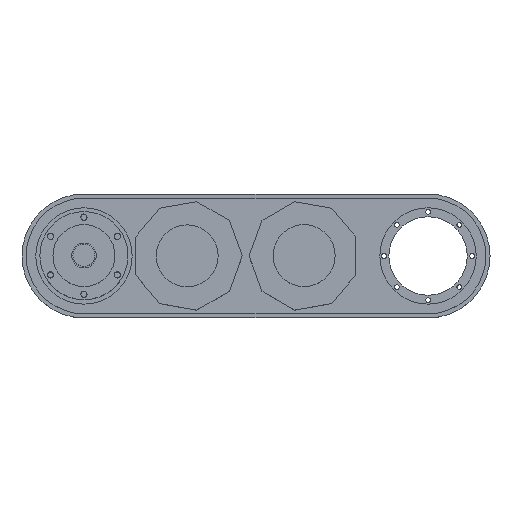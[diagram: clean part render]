
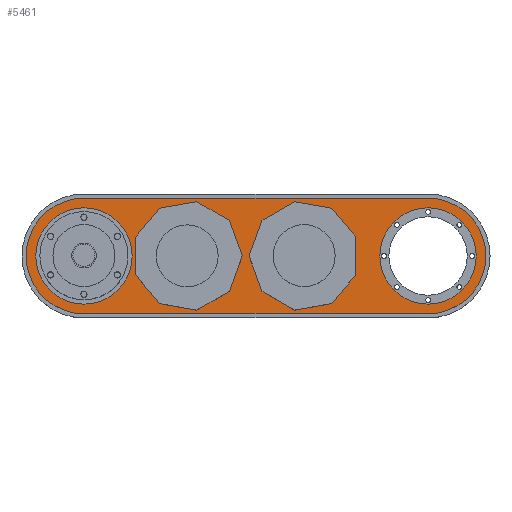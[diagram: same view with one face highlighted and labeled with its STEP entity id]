
A CAD part, top view. The second image highlights one B-rep face of the part: STEP entity #5461.
In plain terms, the highlighted planar face has unit normal (0, 0, 1).
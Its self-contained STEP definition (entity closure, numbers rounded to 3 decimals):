
#4790 = VERTEX_POINT('',#4791);
#4791 = CARTESIAN_POINT('',(-125.,42.,12.));
#4797 = EDGE_CURVE('',#4790,#4798,#4800,.T.);
#4798 = VERTEX_POINT('',#4799);
#4799 = CARTESIAN_POINT('',(-125.,-42.,12.));
#4800 = CIRCLE('',#4801,42.);
#4801 = AXIS2_PLACEMENT_3D('',#4802,#4803,#4804);
#4802 = CARTESIAN_POINT('',(-125.,0.,12.));
#4803 = DIRECTION('',(0.,0.,1.));
#4804 = DIRECTION('',(1.,0.,0.));
#4822 = EDGE_CURVE('',#4798,#4823,#4825,.T.);
#4823 = VERTEX_POINT('',#4824);
#4824 = CARTESIAN_POINT('',(125.,-42.,12.));
#4825 = LINE('',#4826,#4827);
#4826 = CARTESIAN_POINT('',(-125.,-42.,12.));
#4827 = VECTOR('',#4828,1.);
#4828 = DIRECTION('',(1.,0.,0.));
#4846 = EDGE_CURVE('',#4823,#4847,#4849,.T.);
#4847 = VERTEX_POINT('',#4848);
#4848 = CARTESIAN_POINT('',(125.,42.,12.));
#4849 = CIRCLE('',#4850,42.);
#4850 = AXIS2_PLACEMENT_3D('',#4851,#4852,#4853);
#4851 = CARTESIAN_POINT('',(125.,0.,12.));
#4852 = DIRECTION('',(0.,0.,1.));
#4853 = DIRECTION('',(1.,0.,0.));
#4871 = EDGE_CURVE('',#4790,#4847,#4872,.T.);
#4872 = LINE('',#4873,#4874);
#4873 = CARTESIAN_POINT('',(-125.,42.,12.));
#4874 = VECTOR('',#4875,1.);
#4875 = DIRECTION('',(1.,0.,0.));
#5461 = ADVANCED_FACE('',(#5462,#5468,#5479,#5490,#5501,#5512,#5523,
    #5534,#5545,#5556,#5567,#5578,#5589),#5600,.T.);
#5462 = FACE_BOUND('',#5463,.T.);
#5463 = EDGE_LOOP('',(#5464,#5465,#5466,#5467));
#5464 = ORIENTED_EDGE('',*,*,#4797,.T.);
#5465 = ORIENTED_EDGE('',*,*,#4822,.T.);
#5466 = ORIENTED_EDGE('',*,*,#4846,.T.);
#5467 = ORIENTED_EDGE('',*,*,#4871,.F.);
#5468 = FACE_BOUND('',#5469,.T.);
#5469 = EDGE_LOOP('',(#5470));
#5470 = ORIENTED_EDGE('',*,*,#5471,.F.);
#5471 = EDGE_CURVE('',#5472,#5472,#5474,.T.);
#5472 = VERTEX_POINT('',#5473);
#5473 = CARTESIAN_POINT('',(-22.973,-24.105,12.));
#5474 = CIRCLE('',#5475,1.7);
#5475 = AXIS2_PLACEMENT_3D('',#5476,#5477,#5478);
#5476 = CARTESIAN_POINT('',(-21.273,-24.105,12.));
#5477 = DIRECTION('',(0.,-0.,1.));
#5478 = DIRECTION('',(-1.,0.,0.));
#5479 = FACE_BOUND('',#5480,.T.);
#5480 = EDGE_LOOP('',(#5481));
#5481 = ORIENTED_EDGE('',*,*,#5482,.F.);
#5482 = EDGE_CURVE('',#5483,#5483,#5485,.T.);
#5483 = VERTEX_POINT('',#5484);
#5484 = CARTESIAN_POINT('',(-86.938,-12.826,12.));
#5485 = CIRCLE('',#5486,1.7);
#5486 = AXIS2_PLACEMENT_3D('',#5487,#5488,#5489);
#5487 = CARTESIAN_POINT('',(-85.238,-12.826,12.));
#5488 = DIRECTION('',(0.,-0.,1.));
#5489 = DIRECTION('',(-1.,0.,0.));
#5490 = FACE_BOUND('',#5491,.T.);
#5491 = EDGE_LOOP('',(#5492));
#5492 = ORIENTED_EDGE('',*,*,#5493,.F.);
#5493 = EDGE_CURVE('',#5494,#5494,#5496,.T.);
#5494 = VERTEX_POINT('',#5495);
#5495 = CARTESIAN_POINT('',(4.573,-24.105,12.));
#5496 = CIRCLE('',#5497,1.7);
#5497 = AXIS2_PLACEMENT_3D('',#5498,#5499,#5500);
#5498 = CARTESIAN_POINT('',(6.273,-24.105,12.));
#5499 = DIRECTION('',(0.,-0.,1.));
#5500 = DIRECTION('',(-1.,0.,0.));
#5501 = FACE_BOUND('',#5502,.T.);
#5502 = EDGE_LOOP('',(#5503));
#5503 = ORIENTED_EDGE('',*,*,#5504,.F.);
#5504 = EDGE_CURVE('',#5505,#5505,#5507,.T.);
#5505 = VERTEX_POINT('',#5506);
#5506 = CARTESIAN_POINT('',(68.538,-12.826,12.));
#5507 = CIRCLE('',#5508,1.7);
#5508 = AXIS2_PLACEMENT_3D('',#5509,#5510,#5511);
#5509 = CARTESIAN_POINT('',(70.238,-12.826,12.));
#5510 = DIRECTION('',(0.,-0.,1.));
#5511 = DIRECTION('',(-1.,0.,0.));
#5512 = FACE_BOUND('',#5513,.T.);
#5513 = EDGE_LOOP('',(#5514));
#5514 = ORIENTED_EDGE('',*,*,#5515,.F.);
#5515 = EDGE_CURVE('',#5516,#5516,#5518,.T.);
#5516 = VERTEX_POINT('',#5517);
#5517 = CARTESIAN_POINT('',(-90.,0.,12.));
#5518 = CIRCLE('',#5519,35.);
#5519 = AXIS2_PLACEMENT_3D('',#5520,#5521,#5522);
#5520 = CARTESIAN_POINT('',(-125.,0.,12.));
#5521 = DIRECTION('',(0.,0.,1.));
#5522 = DIRECTION('',(1.,0.,0.));
#5523 = FACE_BOUND('',#5524,.T.);
#5524 = EDGE_LOOP('',(#5525));
#5525 = ORIENTED_EDGE('',*,*,#5526,.F.);
#5526 = EDGE_CURVE('',#5527,#5527,#5529,.T.);
#5527 = VERTEX_POINT('',#5528);
#5528 = CARTESIAN_POINT('',(-86.938,12.826,12.));
#5529 = CIRCLE('',#5530,1.7);
#5530 = AXIS2_PLACEMENT_3D('',#5531,#5532,#5533);
#5531 = CARTESIAN_POINT('',(-85.238,12.826,12.));
#5532 = DIRECTION('',(0.,-0.,1.));
#5533 = DIRECTION('',(-1.,0.,0.));
#5534 = FACE_BOUND('',#5535,.T.);
#5535 = EDGE_LOOP('',(#5536));
#5536 = ORIENTED_EDGE('',*,*,#5537,.F.);
#5537 = EDGE_CURVE('',#5538,#5538,#5540,.T.);
#5538 = VERTEX_POINT('',#5539);
#5539 = CARTESIAN_POINT('',(-14.2,0.,12.));
#5540 = CIRCLE('',#5541,1.7);
#5541 = AXIS2_PLACEMENT_3D('',#5542,#5543,#5544);
#5542 = CARTESIAN_POINT('',(-12.5,0.,12.));
#5543 = DIRECTION('',(0.,-0.,1.));
#5544 = DIRECTION('',(-1.,0.,0.));
#5545 = FACE_BOUND('',#5546,.T.);
#5546 = EDGE_LOOP('',(#5547));
#5547 = ORIENTED_EDGE('',*,*,#5548,.F.);
#5548 = EDGE_CURVE('',#5549,#5549,#5551,.T.);
#5549 = VERTEX_POINT('',#5550);
#5550 = CARTESIAN_POINT('',(-4.2,0.,12.));
#5551 = CIRCLE('',#5552,1.7);
#5552 = AXIS2_PLACEMENT_3D('',#5553,#5554,#5555);
#5553 = CARTESIAN_POINT('',(-2.5,0.,12.));
#5554 = DIRECTION('',(0.,-0.,1.));
#5555 = DIRECTION('',(-1.,0.,0.));
#5556 = FACE_BOUND('',#5557,.T.);
#5557 = EDGE_LOOP('',(#5558));
#5558 = ORIENTED_EDGE('',*,*,#5559,.F.);
#5559 = EDGE_CURVE('',#5560,#5560,#5562,.T.);
#5560 = VERTEX_POINT('',#5561);
#5561 = CARTESIAN_POINT('',(-22.973,24.105,12.));
#5562 = CIRCLE('',#5563,1.7);
#5563 = AXIS2_PLACEMENT_3D('',#5564,#5565,#5566);
#5564 = CARTESIAN_POINT('',(-21.273,24.105,12.));
#5565 = DIRECTION('',(0.,-0.,1.));
#5566 = DIRECTION('',(-1.,0.,0.));
#5567 = FACE_BOUND('',#5568,.T.);
#5568 = EDGE_LOOP('',(#5569));
#5569 = ORIENTED_EDGE('',*,*,#5570,.F.);
#5570 = EDGE_CURVE('',#5571,#5571,#5573,.T.);
#5571 = VERTEX_POINT('',#5572);
#5572 = CARTESIAN_POINT('',(68.538,12.826,12.));
#5573 = CIRCLE('',#5574,1.7);
#5574 = AXIS2_PLACEMENT_3D('',#5575,#5576,#5577);
#5575 = CARTESIAN_POINT('',(70.238,12.826,12.));
#5576 = DIRECTION('',(0.,-0.,1.));
#5577 = DIRECTION('',(-1.,0.,0.));
#5578 = FACE_BOUND('',#5579,.T.);
#5579 = EDGE_LOOP('',(#5580));
#5580 = ORIENTED_EDGE('',*,*,#5581,.F.);
#5581 = EDGE_CURVE('',#5582,#5582,#5584,.T.);
#5582 = VERTEX_POINT('',#5583);
#5583 = CARTESIAN_POINT('',(160.,0.,12.));
#5584 = CIRCLE('',#5585,35.);
#5585 = AXIS2_PLACEMENT_3D('',#5586,#5587,#5588);
#5586 = CARTESIAN_POINT('',(125.,0.,12.));
#5587 = DIRECTION('',(0.,0.,1.));
#5588 = DIRECTION('',(1.,0.,0.));
#5589 = FACE_BOUND('',#5590,.T.);
#5590 = EDGE_LOOP('',(#5591));
#5591 = ORIENTED_EDGE('',*,*,#5592,.F.);
#5592 = EDGE_CURVE('',#5593,#5593,#5595,.T.);
#5593 = VERTEX_POINT('',#5594);
#5594 = CARTESIAN_POINT('',(4.573,24.105,12.));
#5595 = CIRCLE('',#5596,1.7);
#5596 = AXIS2_PLACEMENT_3D('',#5597,#5598,#5599);
#5597 = CARTESIAN_POINT('',(6.273,24.105,12.));
#5598 = DIRECTION('',(0.,-0.,1.));
#5599 = DIRECTION('',(-1.,0.,0.));
#5600 = PLANE('',#5601);
#5601 = AXIS2_PLACEMENT_3D('',#5602,#5603,#5604);
#5602 = CARTESIAN_POINT('',(0.,0.,12.)
  );
#5603 = DIRECTION('',(0.,0.,1.));
#5604 = DIRECTION('',(1.,0.,0.));
